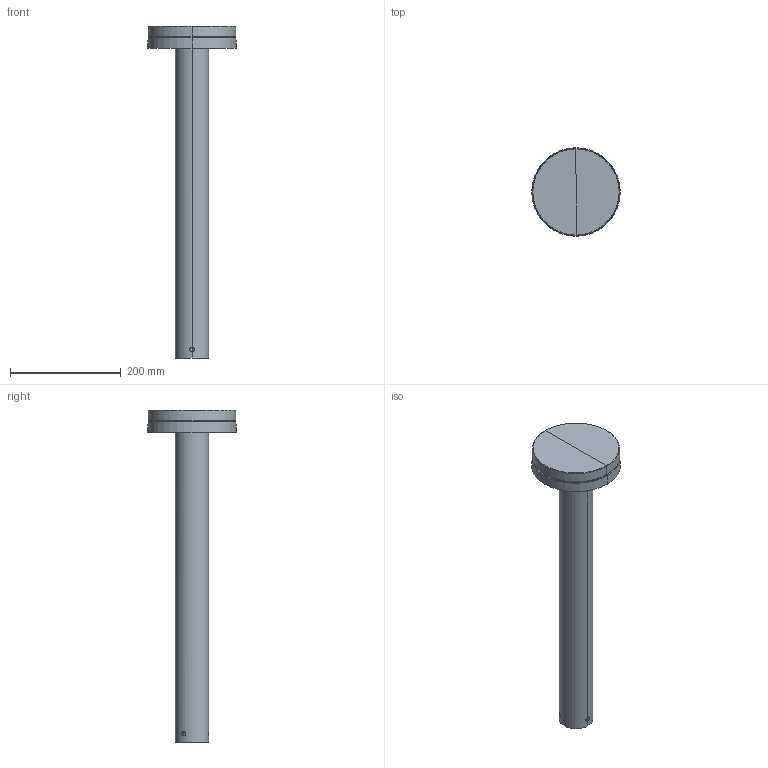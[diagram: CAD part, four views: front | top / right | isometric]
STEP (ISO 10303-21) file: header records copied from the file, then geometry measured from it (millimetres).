
FILE_DESCRIPTION(/* description */ (''),/* implementation_level */ '2;1');
FILE_NAME(/* name */ '71948.step',/* time_stamp */ '2024-09-25T13:57:15+02:00',/* author */ ('RenataManzini'),/* organization */ (''),/* preprocessor_version */ 'ST-DEVELOPER v20',/* originating_system */ 'AutoCAD Mechanical',/* authorisation */ '');
FILE_SCHEMA (('AUTOMOTIVE_DESIGN { 1 0 10303 214 3 1 1 }'));
Length unit declared in the file: millimetre
Products named in the file (2): Product; espot_600 - pieza-730783-_3D_
Assembly tree (1 placements, depth 2):
  Product
    espot_600 - pieza-730783-_3D_
Bounding box: 160 x 160 x 600 mm (x, y, z)
Volume: 997642.8 mm3; surface area: 269997.5 mm2
Topology: 5 solids, 5 shells, 98 faces, 215 edges, 129 vertices
Faces by surface type: cylinder 41, plane 37, cone 18, torus 2
Entity records: 3196 total; most frequent: CARTESIAN_POINT 980, DIRECTION 474, ORIENTED_EDGE 424, EDGE_CURVE 212, AXIS2_PLACEMENT_3D 184, VERTEX_POINT 124, EDGE_LOOP 110, LINE 106
